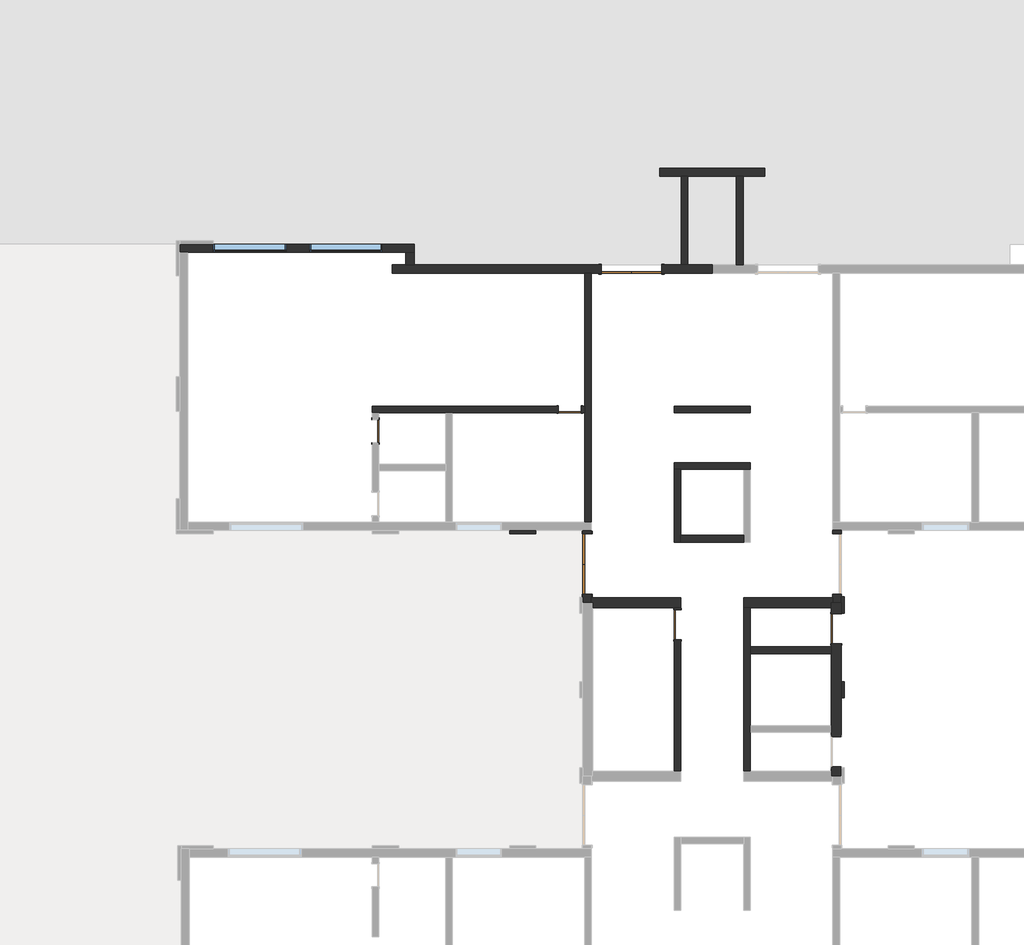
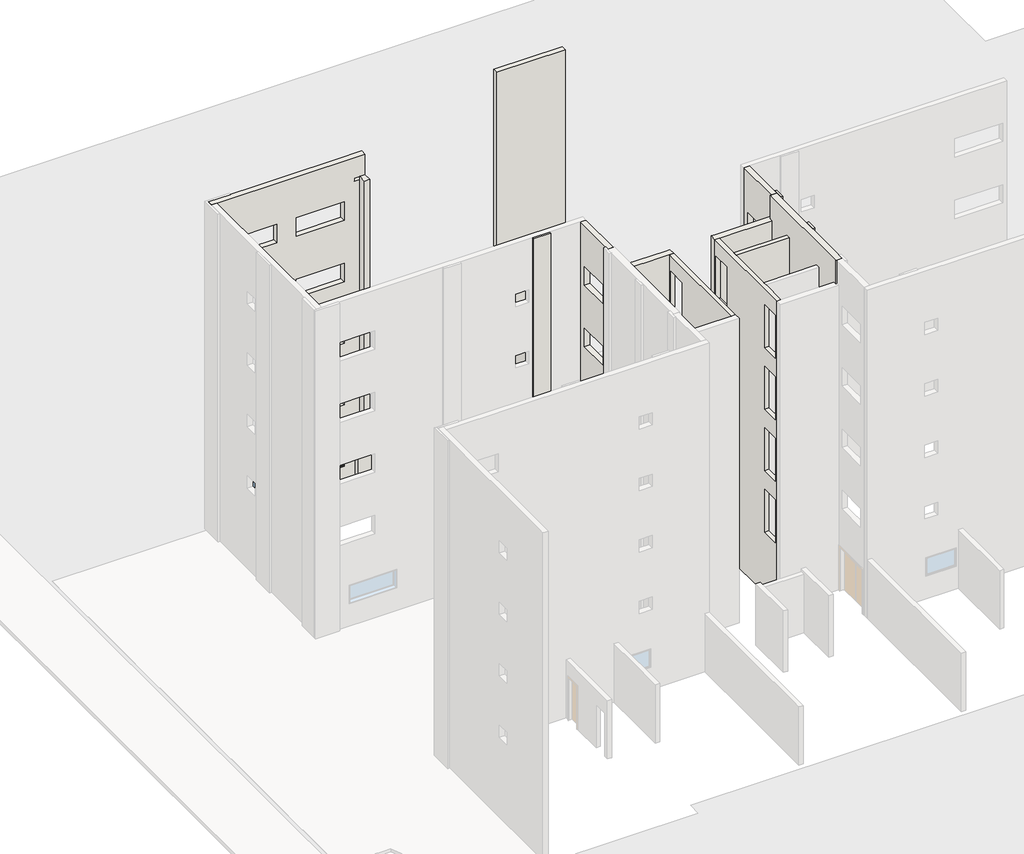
# One storey, part 4 of 6: 23 walls, 6 doors, 2 windows.
"""IFC4 building model written with IfcOpenShell, lengths in millimetres."""

from ifc_helpers import new_model, si_unit, origin, origin_with_axes, place, context, project, spatial, polyline, outline, extrude, faceted_brep, transform, mapped, element, save
from components import door_1830_x_2134_mm_660d1098, door_70_x_210_2a34fc55, door_90_x_210_7cab96d7, door_90_x_210_2c83007d, window_220_x_90_84e01c73

model = new_model("IFC4")

# Units and contexts
model_context = context("Model", 3, world=origin())
ifc_project = project(units=[si_unit("LENGTHUNIT", "METRE", prefix="MILLI")], contexts=[model_context])

# Site, building, storey
site = spatial("IfcSite", under=ifc_project)
building = spatial("IfcBuilding", under=site)
storey = spatial("IfcBuildingStorey", under=building, Name="Térreo", Elevation=0.0)

# Doors
placement = place(None, origin())
door_1830_x_2134_mm_shape = door_1830_x_2134_mm_660d1098(model_context)
element("IfcDoor", 1, ObjectType="Descarga dupla : 1830 x 2134 mm", at=placement, inside=storey, context=model_context, shape_type="MappedRepresentation", body=[
    mapped(door_1830_x_2134_mm_shape, transform((-3461.2265742, 13478.6614625, 0.0), x_axis=(-1.0, 0.0, 0.0), y_axis=(0.0, -1.0, 0.0), z_axis=(0.0, 0.0, 1.0))),
])
element("IfcDoor", 2, ObjectType="Descarga dupla : 1830 x 2134 mm", at=placement, inside=storey, context=model_context, shape_type="MappedRepresentation", body=[
    mapped(door_1830_x_2134_mm_shape, transform((-4801.2265742, 4563.6614625, 0.0), x_axis=(0.0, 1.0, 0.0), y_axis=(-1.0, 0.0, 0.0), z_axis=(0.0, 0.0, 1.0))),
])
door_70_x_210_shape = door_70_x_210_2a34fc55(model_context)
element("IfcDoor", 3, ObjectType="M_Descarga simples : 70 x 210", at=placement, inside=storey, context=model_context, shape_type="MappedRepresentation", body=[
    mapped(door_70_x_210_shape, transform((-5326.2265742, 9233.6614625, 0.0), x_axis=(1.0, 0.0, 0.0), y_axis=(0.0, 1.0, 0.0), z_axis=(0.0, 0.0, 1.0))),
])
element("IfcDoor", 4, ObjectType="M_Descarga simples : 70 x 210", at=placement, inside=storey, context=model_context, shape_type="MappedRepresentation", body=[
    mapped(door_70_x_210_shape, transform((-11191.2265742, 8583.6614625, 0.0), x_axis=(0.0, 1.0, 0.0), y_axis=(-1.0, 0.0, 0.0), z_axis=(0.0, 0.0, 1.0))),
])
door_90_x_210_shape = door_90_x_210_7cab96d7(model_context)
element("IfcDoor", 5, ObjectType="M_Descarga simples : 90 x 210", at=placement, inside=storey, context=model_context, shape_type="MappedRepresentation", body=[
    mapped(door_90_x_210_shape, transform((2723.7734258, 2613.6614625, 0.0), x_axis=(0.0, 1.0, 0.0), y_axis=(-1.0, 0.0, 0.0), z_axis=(0.0, 0.0, 1.0))),
])
door_90_x_210_2_shape = door_90_x_210_2c83007d(model_context)
element("IfcDoor", 6, ObjectType="M_Descarga simples : 90 x 210", at=placement, inside=storey, context=model_context, shape_type="MappedRepresentation", body=[
    mapped(door_90_x_210_2_shape, transform((-2076.2265742, 2733.6614625, 0.0), x_axis=(0.0, 1.0, 0.0), y_axis=(-1.0, 0.0, 0.0), z_axis=(0.0, 0.0, 1.0))),
])

# Walls
element("IfcWall", 7, ObjectType="Exeterna 25", at=placement, inside=storey, context=model_context, shape_type="Brep", body=[
    faceted_brep([(2623.7734258, 3393.6614625, 16000.0), (2623.7734258, 5583.6614625, 16000.0), (2623.7734258, 5583.6614625, 15000.0), (2623.7734258, 5583.6614625, 14850.0), (2623.7734258, 5583.6614625, 3000.0), (2623.7734258, 5583.6614625, 2850.0), (2623.7734258, 5583.6614625, 0.0), (2623.7734258, 5478.6614625, 0.0), (2623.7734258, 5478.6614625, 2134.0), (2623.7734258, 3648.6614625, 2134.0), (2623.7734258, 3648.6614625, 0.0), (2623.7734258, 3543.6614625, 0.0), (2623.7734258, 3393.6614625, 0.0), (2623.7734258, 3393.6614625, 2850.0), (2623.7734258, 3393.6614625, 3000.0), (2623.7734258, 3393.6614625, 14850.0), (2623.7734258, 3393.6614625, 15000.0), (2623.7734258, 5271.7613136, 5000.0), (2623.7734258, 3804.0781409, 5000.0), (2623.7734258, 3804.0781409, 4100.0), (2623.7734258, 5271.7613136, 4100.0), (2623.7734258, 5271.7613136, 8000.0), (2623.7734258, 3804.0781409, 8000.0), (2623.7734258, 3804.0781409, 7100.0), (2623.7734258, 5271.7613136, 7100.0), (2623.7734258, 5271.7613136, 11000.0), (2623.7734258, 3804.0781409, 11000.0), (2623.7734258, 3804.0781409, 10100.0), (2623.7734258, 5271.7613136, 10100.0), (2623.7734258, 5271.7613136, 14000.0), (2623.7734258, 3804.0781409, 14000.0), (2623.7734258, 3804.0781409, 13100.0), (2623.7734258, 5271.7613136, 13100.0), (2873.7734258, 5583.6614625, 16000.0), (2873.7734258, 3393.6614625, 16000.0), (2873.7734258, 3393.6614625, 0.0), (2873.7734258, 3648.6614625, 0.0), (2873.7734258, 3648.6614625, 2134.0), (2873.7734258, 5478.6614625, 2134.0), (2873.7734258, 5478.6614625, 0.0), (2873.7734258, 5583.6614625, 0.0), (2873.7734258, 3804.0781409, 5000.0), (2873.7734258, 5271.7613136, 5000.0), (2873.7734258, 5271.7613136, 4100.0), (2873.7734258, 3804.0781409, 4100.0), (2873.7734258, 3804.0781409, 8000.0), (2873.7734258, 5271.7613136, 8000.0), (2873.7734258, 5271.7613136, 7100.0), (2873.7734258, 3804.0781409, 7100.0), (2873.7734258, 3804.0781409, 11000.0), (2873.7734258, 5271.7613136, 11000.0), (2873.7734258, 5271.7613136, 10100.0), (2873.7734258, 3804.0781409, 10100.0), (2873.7734258, 3804.0781409, 14000.0), (2873.7734258, 5271.7613136, 14000.0), (2873.7734258, 5271.7613136, 13100.0), (2873.7734258, 3804.0781409, 13100.0)], [[[0, 1, 2, 3, 4, 5, 6, 7, 8, 9, 10, 11, 12, 13, 14, 15, 16], [17, 18, 19, 20], [21, 22, 23, 24], [25, 26, 27, 28], [29, 30, 31, 32]], [[33, 34, 35, 36, 37, 38, 39, 40], [41, 42, 43, 44], [45, 46, 47, 48], [49, 50, 51, 52], [53, 54, 55, 56]], [[6, 40, 39, 7]], [[35, 12, 11, 10, 36]], [[1, 0, 34, 33]], [[38, 8, 7, 39]], [[8, 38, 37, 9]], [[9, 37, 36, 10]], [[17, 42, 41, 18]], [[19, 44, 43, 20]], [[42, 17, 20, 43]], [[18, 41, 44, 19]], [[21, 46, 45, 22]], [[23, 48, 47, 24]], [[46, 21, 24, 47]], [[22, 45, 48, 23]], [[25, 50, 49, 26]], [[27, 52, 51, 28]], [[50, 25, 28, 51]], [[26, 49, 52, 27]], [[29, 54, 53, 30]], [[31, 56, 55, 32]], [[54, 29, 32, 55]], [[30, 53, 56, 31]], [[1, 33, 40, 6, 5, 4, 3, 2]], [[12, 35, 34, 0, 16, 15, 14, 13]]]),
])
element("IfcWall", 8, ObjectType="Exeterna 25", at=placement, inside=storey, context=model_context, shape_type="Brep", body=[
    faceted_brep([(-2611.2265742, 16278.6614625, 16000.0), (-2611.2265742, 16278.6614625, 14700.0), (-2611.2265742, 16278.6614625, 12150.0), (-2611.2265742, 16278.6614625, 11850.0), (-2611.2265742, 16278.6614625, 9150.0), (-2611.2265742, 16278.6614625, 8850.0), (-2611.2265742, 16278.6614625, 6150.0), (-2611.2265742, 16278.6614625, 5850.0), (-2611.2265742, 16278.6614625, 3150.0), (-2611.2265742, 16278.6614625, 2850.0), (-2611.2265742, 16278.6614625, 0.0), (-1961.2265742, 16278.6614625, 0.0), (-1761.2265742, 16278.6614625, 0.0), (-291.2265742, 16278.6614625, 0.0), (-91.2265742, 16278.6614625, 0.0), (558.7734258, 16278.6614625, 0.0), (558.7734258, 16278.6614625, 2850.0), (558.7734258, 16278.6614625, 3150.0), (558.7734258, 16278.6614625, 5850.0), (558.7734258, 16278.6614625, 6150.0), (558.7734258, 16278.6614625, 8850.0), (558.7734258, 16278.6614625, 9150.0), (558.7734258, 16278.6614625, 11850.0), (558.7734258, 16278.6614625, 12150.0), (558.7734258, 16278.6614625, 14700.0), (558.7734258, 16278.6614625, 16000.0), (-2611.2265742, 16528.6614625, 0.0), (-2611.2265742, 16528.6614625, 2850.0), (-2611.2265742, 16528.6614625, 3150.0), (-2611.2265742, 16528.6614625, 5850.0), (-2611.2265742, 16528.6614625, 6150.0), (-2611.2265742, 16528.6614625, 8850.0), (-2611.2265742, 16528.6614625, 9150.0), (-2611.2265742, 16528.6614625, 11850.0), (-2611.2265742, 16528.6614625, 12150.0), (-2611.2265742, 16528.6614625, 14700.0), (-2611.2265742, 16528.6614625, 16000.0), (558.7734258, 16528.6614625, 16000.0), (558.7734258, 16528.6614625, 14700.0), (558.7734258, 16528.6614625, 12150.0), (558.7734258, 16528.6614625, 11850.0), (558.7734258, 16528.6614625, 9150.0), (558.7734258, 16528.6614625, 8850.0), (558.7734258, 16528.6614625, 6150.0), (558.7734258, 16528.6614625, 5850.0), (558.7734258, 16528.6614625, 3150.0), (558.7734258, 16528.6614625, 2850.0), (558.7734258, 16528.6614625, 0.0)], [[[0, 1, 2, 3, 4, 5, 6, 7, 8, 9, 10, 11, 12, 13, 14, 15, 16, 17, 18, 19, 20, 21, 22, 23, 24, 25]], [[26, 27, 28, 29, 30, 31, 32, 33, 34, 35, 36, 37, 38, 39, 40, 41, 42, 43, 44, 45, 46, 47]], [[15, 14, 13, 12, 11, 10, 26, 47]], [[0, 25, 37, 36]], [[15, 47, 46, 45, 44, 43, 42, 41, 40, 39, 38, 37, 25, 24, 23, 22, 21, 20, 19, 18, 17, 16]], [[0, 36, 35, 34, 33, 32, 31, 30, 29, 28, 27, 26, 10, 9, 8, 7, 6, 5, 4, 3, 2, 1]]]),
])
element("IfcWall", 9, ObjectType="Exeterna 25", at=placement, inside=storey, context=model_context, shape_type="Brep", body=[
    faceted_brep([(-10026.2265742, 14233.6614625, 0.0), (-17116.2265742, 14233.6614625, 0.0), (-17116.2265742, 14233.6614625, 16000.0), (-10766.2265742, 14233.6614625, 16000.0), (-10516.2265742, 14233.6614625, 16000.0), (-10026.2265742, 14233.6614625, 16000.0), (-10026.2265742, 14233.6614625, 15000.0), (-10516.2265742, 14233.6614625, 15000.0), (-10516.2265742, 14233.6614625, 14850.0), (-10026.2265742, 14233.6614625, 14850.0), (-10026.2265742, 14233.6614625, 3000.0), (-10516.2265742, 14233.6614625, 3000.0), (-10516.2265742, 14233.6614625, 2850.0), (-10026.2265742, 14233.6614625, 2850.0), (-16291.2265742, 14233.6614625, 5000.0), (-16291.2265742, 14233.6614625, 4100.0), (-14091.2265742, 14233.6614625, 4100.0), (-14091.2265742, 14233.6614625, 5000.0), (-13191.2265742, 14233.6614625, 5000.0), (-13191.2265742, 14233.6614625, 4100.0), (-10991.2265742, 14233.6614625, 4100.0), (-10991.2265742, 14233.6614625, 5000.0), (-16291.2265742, 14233.6614625, 8000.0), (-16291.2265742, 14233.6614625, 7100.0), (-14091.2265742, 14233.6614625, 7100.0), (-14091.2265742, 14233.6614625, 8000.0), (-13191.2265742, 14233.6614625, 8000.0), (-13191.2265742, 14233.6614625, 7100.0), (-10991.2265742, 14233.6614625, 7100.0), (-10991.2265742, 14233.6614625, 8000.0), (-16291.2265742, 14233.6614625, 11000.0), (-16291.2265742, 14233.6614625, 10100.0), (-14091.2265742, 14233.6614625, 10100.0), (-14091.2265742, 14233.6614625, 11000.0), (-13191.2265742, 14233.6614625, 11000.0), (-13191.2265742, 14233.6614625, 10100.0), (-10991.2265742, 14233.6614625, 10100.0), (-10991.2265742, 14233.6614625, 11000.0), (-16291.2265742, 14233.6614625, 14000.0), (-16291.2265742, 14233.6614625, 13100.0), (-14091.2265742, 14233.6614625, 13100.0), (-14091.2265742, 14233.6614625, 14000.0), (-13191.2265742, 14233.6614625, 14000.0), (-13191.2265742, 14233.6614625, 13100.0), (-10991.2265742, 14233.6614625, 13100.0), (-10991.2265742, 14233.6614625, 14000.0), (-16096.2265742, 14233.6614625, 2000.0), (-16096.2265742, 14233.6614625, 1100.0), (-13896.2265742, 14233.6614625, 1100.0), (-13896.2265742, 14233.6614625, 2000.0), (-13191.2265742, 14233.6614625, 2000.0), (-13191.2265742, 14233.6614625, 1100.0), (-10991.2265742, 14233.6614625, 1100.0), (-10991.2265742, 14233.6614625, 2000.0), (-17116.2265742, 13983.6614625, 0.0), (-16866.2265742, 13983.6614625, 0.0), (-10276.2265742, 13983.6614625, 0.0), (-10026.2265742, 13983.6614625, 0.0), (-10026.2265742, 13983.6614625, 2850.0), (-10516.2265742, 13983.6614625, 2850.0), (-10516.2265742, 13983.6614625, 3000.0), (-10026.2265742, 13983.6614625, 3000.0), (-10026.2265742, 13983.6614625, 14850.0), (-10516.2265742, 13983.6614625, 14850.0), (-10516.2265742, 13983.6614625, 15000.0), (-10026.2265742, 13983.6614625, 15000.0), (-10026.2265742, 13983.6614625, 16000.0), (-16866.2265742, 13983.6614625, 16000.0), (-17116.2265742, 13983.6614625, 16000.0), (-16291.2265742, 13983.6614625, 4100.0), (-16291.2265742, 13983.6614625, 5000.0), (-14091.2265742, 13983.6614625, 5000.0), (-14091.2265742, 13983.6614625, 4100.0), (-13191.2265742, 13983.6614625, 4100.0), (-13191.2265742, 13983.6614625, 5000.0), (-10991.2265742, 13983.6614625, 5000.0), (-10991.2265742, 13983.6614625, 4100.0), (-16291.2265742, 13983.6614625, 7100.0), (-16291.2265742, 13983.6614625, 8000.0), (-14091.2265742, 13983.6614625, 8000.0), (-14091.2265742, 13983.6614625, 7100.0), (-13191.2265742, 13983.6614625, 7100.0), (-13191.2265742, 13983.6614625, 8000.0), (-10991.2265742, 13983.6614625, 8000.0), (-10991.2265742, 13983.6614625, 7100.0), (-16291.2265742, 13983.6614625, 10100.0), (-16291.2265742, 13983.6614625, 11000.0), (-14091.2265742, 13983.6614625, 11000.0), (-14091.2265742, 13983.6614625, 10100.0), (-13191.2265742, 13983.6614625, 10100.0), (-13191.2265742, 13983.6614625, 11000.0), (-10991.2265742, 13983.6614625, 11000.0), (-10991.2265742, 13983.6614625, 10100.0), (-16291.2265742, 13983.6614625, 13100.0), (-16291.2265742, 13983.6614625, 14000.0), (-14091.2265742, 13983.6614625, 14000.0), (-14091.2265742, 13983.6614625, 13100.0), (-13191.2265742, 13983.6614625, 13100.0), (-13191.2265742, 13983.6614625, 14000.0), (-10991.2265742, 13983.6614625, 14000.0), (-10991.2265742, 13983.6614625, 13100.0), (-16096.2265742, 13983.6614625, 1100.0), (-16096.2265742, 13983.6614625, 2000.0), (-13896.2265742, 13983.6614625, 2000.0), (-13896.2265742, 13983.6614625, 1100.0), (-13191.2265742, 13983.6614625, 1100.0), (-13191.2265742, 13983.6614625, 2000.0), (-10991.2265742, 13983.6614625, 2000.0), (-10991.2265742, 13983.6614625, 1100.0)], [[[0, 1, 2, 3, 4, 5, 6, 7, 8, 9, 10, 11, 12, 13], [14, 15, 16, 17], [18, 19, 20, 21], [22, 23, 24, 25], [26, 27, 28, 29], [30, 31, 32, 33], [34, 35, 36, 37], [38, 39, 40, 41], [42, 43, 44, 45], [46, 47, 48, 49], [50, 51, 52, 53]], [[54, 55, 56, 57, 58, 59, 60, 61, 62, 63, 64, 65, 66, 67, 68], [69, 70, 71, 72], [73, 74, 75, 76], [77, 78, 79, 80], [81, 82, 83, 84], [85, 86, 87, 88], [89, 90, 91, 92], [93, 94, 95, 96], [97, 98, 99, 100], [101, 102, 103, 104], [105, 106, 107, 108]], [[1, 0, 57, 56, 55, 54]], [[5, 4, 3, 2, 68, 67, 66]], [[2, 1, 54, 68]], [[5, 66, 65, 6]], [[57, 0, 13, 58]], [[61, 10, 9, 62]], [[12, 59, 58, 13]], [[60, 11, 10, 61]], [[59, 12, 11, 60]], [[70, 69, 15, 14]], [[71, 70, 14, 17]], [[72, 71, 17, 16]], [[69, 72, 16, 15]], [[74, 73, 19, 18]], [[75, 74, 18, 21]], [[76, 75, 21, 20]], [[73, 76, 20, 19]], [[8, 63, 62, 9]], [[64, 7, 6, 65]], [[63, 8, 7, 64]], [[78, 77, 23, 22]], [[79, 78, 22, 25]], [[80, 79, 25, 24]], [[77, 80, 24, 23]], [[82, 81, 27, 26]], [[83, 82, 26, 29]], [[84, 83, 29, 28]], [[81, 84, 28, 27]], [[86, 85, 31, 30]], [[87, 86, 30, 33]], [[88, 87, 33, 32]], [[85, 88, 32, 31]], [[90, 89, 35, 34]], [[91, 90, 34, 37]], [[92, 91, 37, 36]], [[89, 92, 36, 35]], [[94, 93, 39, 38]], [[95, 94, 38, 41]], [[96, 95, 41, 40]], [[93, 96, 40, 39]], [[98, 97, 43, 42]], [[99, 98, 42, 45]], [[100, 99, 45, 44]], [[97, 100, 44, 43]], [[102, 101, 47, 46]], [[103, 102, 46, 49]], [[104, 103, 49, 48]], [[101, 104, 48, 47]], [[106, 105, 51, 50]], [[107, 106, 50, 53]], [[108, 107, 53, 52]], [[105, 108, 52, 51]]]),
])
element("IfcWall", 10, ObjectType="Exeterna 25", at=placement, inside=storey, context=model_context, shape_type="Brep", body=[
    faceted_brep([(-4926.2265742, 3393.6614625, 16000.0), (-4926.2265742, 5583.6614625, 16000.0), (-4926.2265742, 5583.6614625, 0.0), (-4926.2265742, 5478.6614625, 0.0), (-4926.2265742, 5478.6614625, 2134.0), (-4926.2265742, 3648.6614625, 2134.0), (-4926.2265742, 3648.6614625, 0.0), (-4926.2265742, 3393.6614625, 0.0), (-4926.2265742, 5271.7613136, 5000.0), (-4926.2265742, 3804.0781409, 5000.0), (-4926.2265742, 3804.0781409, 4100.0), (-4926.2265742, 5271.7613136, 4100.0), (-4926.2265742, 5271.7613136, 8000.0), (-4926.2265742, 3804.0781409, 8000.0), (-4926.2265742, 3804.0781409, 7100.0), (-4926.2265742, 5271.7613136, 7100.0), (-4926.2265742, 5271.7613136, 11000.0), (-4926.2265742, 3804.0781409, 11000.0), (-4926.2265742, 3804.0781409, 10100.0), (-4926.2265742, 5271.7613136, 10100.0), (-4926.2265742, 5271.7613136, 14000.0), (-4926.2265742, 3804.0781409, 14000.0), (-4926.2265742, 3804.0781409, 13100.0), (-4926.2265742, 5271.7613136, 13100.0), (-4676.2265742, 5583.6614625, 16000.0), (-4676.2265742, 3393.6614625, 16000.0), (-4676.2265742, 3393.6614625, 15000.0), (-4676.2265742, 3393.6614625, 14850.0), (-4676.2265742, 3393.6614625, 0.0), (-4676.2265742, 3543.6614625, 0.0), (-4676.2265742, 3648.6614625, 0.0), (-4676.2265742, 3648.6614625, 2134.0), (-4676.2265742, 5478.6614625, 2134.0), (-4676.2265742, 5478.6614625, 0.0), (-4676.2265742, 5583.6614625, 0.0), (-4676.2265742, 5583.6614625, 14850.0), (-4676.2265742, 5583.6614625, 15000.0), (-4676.2265742, 3804.0781409, 5000.0), (-4676.2265742, 5271.7613136, 5000.0), (-4676.2265742, 5271.7613136, 4100.0), (-4676.2265742, 3804.0781409, 4100.0), (-4676.2265742, 3804.0781409, 8000.0), (-4676.2265742, 5271.7613136, 8000.0), (-4676.2265742, 5271.7613136, 7100.0), (-4676.2265742, 3804.0781409, 7100.0), (-4676.2265742, 3804.0781409, 11000.0), (-4676.2265742, 5271.7613136, 11000.0), (-4676.2265742, 5271.7613136, 10100.0), (-4676.2265742, 3804.0781409, 10100.0), (-4676.2265742, 3804.0781409, 14000.0), (-4676.2265742, 5271.7613136, 14000.0), (-4676.2265742, 5271.7613136, 13100.0), (-4676.2265742, 3804.0781409, 13100.0)], [[[0, 1, 2, 3, 4, 5, 6, 7], [8, 9, 10, 11], [12, 13, 14, 15], [16, 17, 18, 19], [20, 21, 22, 23]], [[24, 25, 26, 27, 28, 29, 30, 31, 32, 33, 34, 35, 36], [37, 38, 39, 40], [41, 42, 43, 44], [45, 46, 47, 48], [49, 50, 51, 52]], [[2, 34, 33, 3]], [[28, 7, 6, 30, 29]], [[1, 0, 25, 24]], [[32, 4, 3, 33]], [[4, 32, 31, 5]], [[5, 31, 30, 6]], [[8, 38, 37, 9]], [[10, 40, 39, 11]], [[38, 8, 11, 39]], [[9, 37, 40, 10]], [[12, 42, 41, 13]], [[14, 44, 43, 15]], [[42, 12, 15, 43]], [[13, 41, 44, 14]], [[16, 46, 45, 17]], [[18, 48, 47, 19]], [[46, 16, 19, 47]], [[17, 45, 48, 18]], [[20, 50, 49, 21]], [[22, 52, 51, 23]], [[50, 20, 23, 51]], [[21, 49, 52, 22]], [[1, 24, 36, 35, 34, 2]], [[7, 28, 27, 26, 25, 0]]]),
])
element("IfcWall", 11, ObjectType="Exeterna 25", at=placement, inside=storey, context=model_context, shape_type="Brep", body=[
    faceted_brep([(-10026.2265742, 13603.6614625, 0.0), (-10026.2265742, 13983.6614625, 0.0), (-10026.2265742, 13983.6614625, 15000.0), (-10026.2265742, 13603.6614625, 15000.0), (-10026.2265742, 13603.6614625, 6000.0), (-10026.2265742, 13603.6614625, 3000.0), (-10276.2265742, 13603.6614625, 0.0), (-10276.2265742, 13603.6614625, 15000.0), (-10276.2265742, 13983.6614625, 15000.0), (-10276.2265742, 13983.6614625, 0.0)], [[[0, 1, 2, 3, 4, 5]], [[6, 7, 8, 9]], [[1, 0, 6, 9]], [[3, 2, 8, 7]], [[2, 1, 9, 8]], [[0, 5, 4, 3, 7, 6]]]),
])
element("IfcWall", 12, ObjectType="Exeterna 25", at=placement, inside=storey, context=model_context, shape_type="Brep", body=[
    faceted_brep([(-10691.2265742, 13603.6614625, 0.0), (-10691.2265742, 13603.6614625, 2850.0), (-1026.2265742, 13603.6614625, 2850.0), (-1026.2265742, 13603.6614625, 0.0), (-1761.2265742, 13603.6614625, 0.0), (-1961.2265742, 13603.6614625, 0.0), (-2546.2265742, 13603.6614625, 0.0), (-2546.2265742, 13603.6614625, 2134.0), (-4376.2265742, 13603.6614625, 2134.0), (-4376.2265742, 13603.6614625, 0.0), (-10691.2265742, 13353.6614625, 2850.0), (-10691.2265742, 13353.6614625, 0.0), (-4876.2265742, 13353.6614625, 0.0), (-4676.2265742, 13353.6614625, 0.0), (-4376.2265742, 13353.6614625, 0.0), (-4376.2265742, 13353.6614625, 2134.0), (-2546.2265742, 13353.6614625, 2134.0), (-2546.2265742, 13353.6614625, 0.0), (-1026.2265742, 13353.6614625, 0.0), (-1026.2265742, 13353.6614625, 2850.0), (-4676.2265742, 13353.6614625, 2850.0), (-4876.2265742, 13353.6614625, 2850.0)], [[[0, 1, 2, 3, 4, 5, 6, 7, 8, 9]], [[10, 11, 12, 13, 14, 15, 16, 17, 18, 19, 20, 21]], [[11, 0, 9, 14, 13, 12]], [[3, 18, 17, 6, 5, 4]], [[1, 0, 11, 10]], [[2, 1, 10, 21, 20, 19]], [[3, 2, 19, 18]], [[8, 15, 14, 9]], [[15, 8, 7, 16]], [[16, 7, 6, 17]]]),
])
element("IfcWall", 13, ObjectType="Estrutura - Interna 30", at=placement, inside=storey, context=model_context, shape_type="Brep", body=[
    faceted_brep([(-4626.2265742, 3243.6614625, 0.0), (-2176.2265742, 3243.6614625, 0.0), (-1976.2265742, 3243.6614625, 0.0), (-1976.2265742, 3243.6614625, 2850.0), (-1976.2265742, 3243.6614625, 3000.0), (-1976.2265742, 3243.6614625, 14850.0), (-2176.2265742, 3243.6614625, 14850.0), (-4626.2265742, 3243.6614625, 14850.0), (-1976.2265742, 3543.6614625, 0.0), (-4676.2265742, 3543.6614625, 0.0), (-4676.2265742, 3543.6614625, 2850.0), (-4676.2265742, 3543.6614625, 3000.0), (-4676.2265742, 3543.6614625, 14850.0), (-2176.2265742, 3543.6614625, 14850.0), (-1976.2265742, 3543.6614625, 14850.0), (-1976.2265742, 3543.6614625, 12000.0), (-1976.2265742, 3543.6614625, 11850.0), (-1976.2265742, 3543.6614625, 9000.0), (-1976.2265742, 3543.6614625, 8850.0), (-1976.2265742, 3543.6614625, 6000.0), (-1976.2265742, 3543.6614625, 5850.0), (-1976.2265742, 3543.6614625, 3000.0), (-1976.2265742, 3543.6614625, 2850.0), (-4626.2265742, 3393.6614625, 0.0), (-4676.2265742, 3393.6614625, 0.0), (-4676.2265742, 3393.6614625, 14850.0), (-4626.2265742, 3393.6614625, 14850.0)], [[[0, 1, 2, 3, 4, 5, 6, 7]], [[8, 9, 10, 11, 12, 13, 14, 15, 16, 17, 18, 19, 20, 21, 22]], [[2, 1, 0, 23, 24, 9, 8]], [[7, 6, 5, 14, 13, 12, 25, 26]], [[0, 7, 26, 23]], [[26, 25, 24, 23]], [[25, 12, 11, 10, 9, 24]], [[2, 8, 22, 21, 20, 19, 18, 17, 16, 15, 14, 5, 4, 3]]]),
])
element("IfcWall", 14, ObjectType="Estrutura - Interna 30", at=placement, inside=storey, context=model_context, shape_type="Brep", body=[
    faceted_brep([(2623.7734258, 3543.6614625, 0.0), (-76.2265742, 3543.6614625, 0.0), (-76.2265742, 3543.6614625, 3000.0), (123.7734258, 3543.6614625, 3000.0), (123.7734258, 3543.6614625, 5850.0), (-76.2265742, 3543.6614625, 5850.0), (-76.2265742, 3543.6614625, 6000.0), (-76.2265742, 3543.6614625, 8850.0), (-76.2265742, 3543.6614625, 9000.0), (-76.2265742, 3543.6614625, 11850.0), (-76.2265742, 3543.6614625, 12000.0), (-76.2265742, 3543.6614625, 14850.0), (123.7734258, 3543.6614625, 14850.0), (2623.7734258, 3543.6614625, 14850.0), (2573.7734258, 3243.6614625, 0.0), (2573.7734258, 3243.6614625, 14850.0), (123.7734258, 3243.6614625, 14850.0), (-76.2265742, 3243.6614625, 14850.0), (-76.2265742, 3243.6614625, 5850.0), (123.7734258, 3243.6614625, 5850.0), (123.7734258, 3243.6614625, 3000.0), (-76.2265742, 3243.6614625, 3000.0), (-76.2265742, 3243.6614625, 0.0), (123.7734258, 3243.6614625, 0.0), (2623.7734258, 3393.6614625, 0.0), (2573.7734258, 3393.6614625, 0.0), (2573.7734258, 3393.6614625, 14850.0), (2623.7734258, 3393.6614625, 14850.0)], [[[0, 1, 2, 3, 4, 5, 6, 7, 8, 9, 10, 11, 12, 13]], [[14, 15, 16, 17, 18, 19, 20, 21, 22, 23]], [[1, 0, 24, 25, 14, 23, 22]], [[13, 12, 11, 17, 16, 15, 26, 27]], [[20, 3, 2, 21]], [[2, 1, 22, 21]], [[18, 5, 4, 19]], [[4, 3, 20, 19]], [[0, 13, 27, 24]], [[27, 26, 25, 24]], [[26, 15, 14, 25]], [[5, 18, 17, 11, 10, 9, 8, 7, 6]]]),
])
element("IfcWall", 15, ObjectType="Estrutura 20", at=placement, inside=storey, context=model_context, shape_type="Brep", body=[
    faceted_brep([(-76.2265742, 3243.6614625, 14850.0), (-76.2265742, 3243.6614625, 5850.0), (-76.2265742, 3243.6614625, 3000.0), (-76.2265742, 3243.6614625, 0.0), (-76.2265742, -1696.3385375, 0.0), (-76.2265742, -1696.3385375, 14850.0), (-76.2265742, 2303.6614625, 3000.0), (-76.2265742, 3153.6614625, 3000.0), (-76.2265742, 3153.6614625, 5100.0), (-76.2265742, 2303.6614625, 5100.0), (-76.2265742, -746.3385375, 3000.0), (-76.2265742, -746.3385375, 5100.0), (-76.2265742, -1596.3385375, 5100.0), (-76.2265742, -1596.3385375, 3000.0), (-76.2265742, -746.3385375, 6000.0), (-76.2265742, -746.3385375, 8100.0), (-76.2265742, -1596.3385375, 8100.0), (-76.2265742, -1596.3385375, 6000.0), (-76.2265742, 2303.6614625, 6000.0), (-76.2265742, 3153.6614625, 6000.0), (-76.2265742, 3153.6614625, 8100.0), (-76.2265742, 2303.6614625, 8100.0), (-76.2265742, -746.3385375, 9000.0), (-76.2265742, -746.3385375, 11100.0), (-76.2265742, -1596.3385375, 11100.0), (-76.2265742, -1596.3385375, 9000.0), (-76.2265742, 2303.6614625, 9000.0), (-76.2265742, 3153.6614625, 9000.0), (-76.2265742, 3153.6614625, 11100.0), (-76.2265742, 2303.6614625, 11100.0), (-76.2265742, -746.3385375, 12000.0), (-76.2265742, -746.3385375, 14100.0), (-76.2265742, -1596.3385375, 14100.0), (-76.2265742, -1596.3385375, 12000.0), (-76.2265742, 2303.6614625, 12000.0), (-76.2265742, 3153.6614625, 12000.0), (-76.2265742, 3153.6614625, 14100.0), (-76.2265742, 2303.6614625, 14100.0), (123.7734258, 3243.6614625, 0.0), (123.7734258, 3243.6614625, 3000.0), (123.7734258, 3243.6614625, 5850.0), (123.7734258, 3243.6614625, 14850.0), (123.7734258, 2063.6614625, 14850.0), (123.7734258, 1863.6614625, 14850.0), (123.7734258, -316.3385375, 14850.0), (123.7734258, -516.3385375, 14850.0), (123.7734258, -1696.3385375, 14850.0), (123.7734258, -1696.3385375, 0.0), (123.7734258, -516.3385375, 0.0), (123.7734258, -316.3385375, 0.0), (123.7734258, 1863.6614625, 0.0), (123.7734258, 2063.6614625, 0.0), (123.7734258, 2303.6614625, 3000.0), (123.7734258, 2303.6614625, 5100.0), (123.7734258, 3153.6614625, 5100.0), (123.7734258, 3153.6614625, 3000.0), (123.7734258, -746.3385375, 3000.0), (123.7734258, -1596.3385375, 3000.0), (123.7734258, -1596.3385375, 5100.0), (123.7734258, -746.3385375, 5100.0), (123.7734258, -746.3385375, 6000.0), (123.7734258, -1596.3385375, 6000.0), (123.7734258, -1596.3385375, 8100.0), (123.7734258, -746.3385375, 8100.0), (123.7734258, 2303.6614625, 6000.0), (123.7734258, 2303.6614625, 8100.0), (123.7734258, 3153.6614625, 8100.0), (123.7734258, 3153.6614625, 6000.0), (123.7734258, -746.3385375, 9000.0), (123.7734258, -1596.3385375, 9000.0), (123.7734258, -1596.3385375, 11100.0), (123.7734258, -746.3385375, 11100.0), (123.7734258, 2303.6614625, 9000.0), (123.7734258, 2303.6614625, 11100.0), (123.7734258, 3153.6614625, 11100.0), (123.7734258, 3153.6614625, 9000.0), (123.7734258, -746.3385375, 12000.0), (123.7734258, -1596.3385375, 12000.0), (123.7734258, -1596.3385375, 14100.0), (123.7734258, -746.3385375, 14100.0), (123.7734258, 2303.6614625, 12000.0), (123.7734258, 2303.6614625, 14100.0), (123.7734258, 3153.6614625, 14100.0), (123.7734258, 3153.6614625, 12000.0)], [[[0, 1, 2, 3, 4, 5], [6, 7, 8, 9], [10, 11, 12, 13], [14, 15, 16, 17], [18, 19, 20, 21], [22, 23, 24, 25], [26, 27, 28, 29], [30, 31, 32, 33], [34, 35, 36, 37]], [[38, 39, 40, 41, 42, 43, 44, 45, 46, 47, 48, 49, 50, 51], [52, 53, 54, 55], [56, 57, 58, 59], [60, 61, 62, 63], [64, 65, 66, 67], [68, 69, 70, 71], [72, 73, 74, 75], [76, 77, 78, 79], [80, 81, 82, 83]], [[4, 3, 38, 51, 50, 49, 48, 47]], [[0, 5, 46, 45, 44, 43, 42, 41]], [[7, 6, 52, 55]], [[8, 7, 55, 54]], [[9, 8, 54, 53]], [[6, 9, 53, 52]], [[57, 56, 10, 13]], [[58, 57, 13, 12]], [[59, 58, 12, 11]], [[56, 59, 11, 10]], [[61, 60, 14, 17]], [[62, 61, 17, 16]], [[63, 62, 16, 15]], [[60, 63, 15, 14]], [[19, 18, 64, 67]], [[20, 19, 67, 66]], [[21, 20, 66, 65]], [[18, 21, 65, 64]], [[69, 68, 22, 25]], [[70, 69, 25, 24]], [[71, 70, 24, 23]], [[68, 71, 23, 22]], [[27, 26, 72, 75]], [[28, 27, 75, 74]], [[29, 28, 74, 73]], [[26, 29, 73, 72]], [[77, 76, 30, 33]], [[78, 77, 33, 32]], [[79, 78, 32, 31]], [[76, 79, 31, 30]], [[35, 34, 80, 83]], [[36, 35, 83, 82]], [[37, 36, 82, 81]], [[34, 37, 81, 80]], [[4, 47, 46, 5]], [[0, 41, 40, 39, 38, 3, 2, 1]]]),
])
element("IfcWall", 16, ObjectType="Estrutura 20", at=placement, inside=storey, context=model_context, shape_type="Brep", body=[
    faceted_brep([(-2176.2265742, -1696.3385375, 14850.0), (-2176.2265742, 3243.6614625, 14850.0), (-2176.2265742, 3243.6614625, 0.0), (-2176.2265742, 3183.6614625, 0.0), (-2176.2265742, 3183.6614625, 2100.0), (-2176.2265742, 2283.6614625, 2100.0), (-2176.2265742, 2283.6614625, 0.0), (-2176.2265742, -1696.3385375, 0.0), (-2176.2265742, 2243.6614625, 3000.0), (-2176.2265742, 3143.6614625, 3000.0), (-2176.2265742, 3143.6614625, 5100.0), (-2176.2265742, 2243.6614625, 5100.0), (-2176.2265742, 2243.6614625, 6000.0), (-2176.2265742, 3143.6614625, 6000.0), (-2176.2265742, 3143.6614625, 8100.0), (-2176.2265742, 2243.6614625, 8100.0), (-2176.2265742, 2243.6614625, 9000.0), (-2176.2265742, 3143.6614625, 9000.0), (-2176.2265742, 3143.6614625, 11100.0), (-2176.2265742, 2243.6614625, 11100.0), (-2176.2265742, 2243.6614625, 12000.0), (-2176.2265742, 3143.6614625, 12000.0), (-2176.2265742, 3143.6614625, 14100.0), (-2176.2265742, 2243.6614625, 14100.0), (-1976.2265742, 3243.6614625, 14850.0), (-1976.2265742, -1696.3385375, 14850.0), (-1976.2265742, -1696.3385375, 3000.0), (-1976.2265742, -1696.3385375, 2850.0), (-1976.2265742, -1696.3385375, 0.0), (-1976.2265742, 2283.6614625, 0.0), (-1976.2265742, 2283.6614625, 2100.0), (-1976.2265742, 3183.6614625, 2100.0), (-1976.2265742, 3183.6614625, 0.0), (-1976.2265742, 3243.6614625, 0.0), (-1976.2265742, 3243.6614625, 2850.0), (-1976.2265742, 3243.6614625, 3000.0), (-1976.2265742, 3143.6614625, 3000.0), (-1976.2265742, 2243.6614625, 3000.0), (-1976.2265742, 2243.6614625, 5100.0), (-1976.2265742, 3143.6614625, 5100.0), (-1976.2265742, 3143.6614625, 6000.0), (-1976.2265742, 2243.6614625, 6000.0), (-1976.2265742, 2243.6614625, 8100.0), (-1976.2265742, 3143.6614625, 8100.0), (-1976.2265742, 3143.6614625, 9000.0), (-1976.2265742, 2243.6614625, 9000.0), (-1976.2265742, 2243.6614625, 11100.0), (-1976.2265742, 3143.6614625, 11100.0), (-1976.2265742, 3143.6614625, 12000.0), (-1976.2265742, 2243.6614625, 12000.0), (-1976.2265742, 2243.6614625, 14100.0), (-1976.2265742, 3143.6614625, 14100.0)], [[[0, 1, 2, 3, 4, 5, 6, 7], [8, 9, 10, 11], [12, 13, 14, 15], [16, 17, 18, 19], [20, 21, 22, 23]], [[24, 25, 26, 27, 28, 29, 30, 31, 32, 33, 34, 35], [36, 37, 38, 39], [40, 41, 42, 43], [44, 45, 46, 47], [48, 49, 50, 51]], [[2, 33, 32, 3]], [[28, 7, 6, 29]], [[1, 0, 25, 24]], [[4, 3, 32, 31]], [[5, 4, 31, 30]], [[6, 5, 30, 29]], [[9, 8, 37, 36]], [[10, 9, 36, 39]], [[11, 10, 39, 38]], [[8, 11, 38, 37]], [[13, 12, 41, 40]], [[14, 13, 40, 43]], [[15, 14, 43, 42]], [[12, 15, 42, 41]], [[17, 16, 45, 44]], [[18, 17, 44, 47]], [[19, 18, 47, 46]], [[16, 19, 46, 45]], [[21, 20, 49, 48]], [[22, 21, 48, 51]], [[23, 22, 51, 50]], [[20, 23, 50, 49]], [[7, 28, 27, 26, 25, 0]], [[1, 24, 35, 34, 33, 2]]]),
])
element("IfcWall", 17, ObjectType="Estrutura 20", at=placement, inside=storey, context=model_context, shape_type="SweptSolid", body=[
    extrude(outline(polyline([(2573.7734258, 1863.6614625), (123.7734258, 1863.6614625), (123.7734258, 2063.6614625), (2573.7734258, 2063.6614625), (2573.7734258, 1863.6614625)])), origin_with_axes(), (0.0, 0.0, 1.0), 14850.0),
])
element("IfcWall", 18, ObjectType="Estrutura 20", at=placement, inside=storey, context=model_context, shape_type="Brep", body=[
    faceted_brep([(-2176.2265742, 7433.6614625, 0.0), (-1976.2265742, 7433.6614625, 0.0), (-76.2265742, 7433.6614625, 0.0), (123.7734258, 7433.6614625, 0.0), (123.7734258, 7433.6614625, 2850.0), (-2176.2265742, 7433.6614625, 2850.0), (-2176.2265742, 7633.6614625, 0.0), (-2176.2265742, 7633.6614625, 2850.0), (123.7734258, 7633.6614625, 2850.0), (123.7734258, 7633.6614625, 0.0)], [[[0, 1, 2, 3, 4, 5]], [[6, 7, 8, 9]], [[3, 2, 1, 0, 6, 9]], [[4, 3, 9, 8]], [[0, 5, 7, 6]], [[5, 4, 8, 7]]]),
])
element("IfcWall", 19, ObjectType="Estrutura 20", at=placement, inside=storey, context=model_context, shape_type="SweptSolid", body=[
    extrude(outline(polyline([(-76.2265742, 5233.6614625), (-1976.2265742, 5233.6614625), (-1976.2265742, 5433.6614625), (-76.2265742, 5433.6614625), (-76.2265742, 5233.6614625)])), origin_with_axes(), (0.0, 0.0, 1.0), 2850.0),
])
element("IfcWall", 20, ObjectType="Estrutura 20", at=placement, inside=storey, context=model_context, shape_type="Brep", body=[
    faceted_brep([(-4876.2265742, 9333.6614625, 0.0), (-4976.2265742, 9333.6614625, 0.0), (-4976.2265742, 9333.6614625, 2100.0), (-5676.2265742, 9333.6614625, 2100.0), (-5676.2265742, 9333.6614625, 0.0), (-11291.2265742, 9333.6614625, 0.0), (-11291.2265742, 9333.6614625, 2850.0), (-4876.2265742, 9333.6614625, 2850.0), (-4976.2265742, 9133.6614625, 2100.0), (-4976.2265742, 9133.6614625, 0.0), (-4876.2265742, 9133.6614625, 0.0), (-4876.2265742, 9133.6614625, 2850.0), (-8876.2265742, 9133.6614625, 2850.0), (-9076.2265742, 9133.6614625, 2850.0), (-11091.2265742, 9133.6614625, 2850.0), (-11291.2265742, 9133.6614625, 2850.0), (-11291.2265742, 9133.6614625, 0.0), (-11091.2265742, 9133.6614625, 0.0), (-9076.2265742, 9133.6614625, 0.0), (-8876.2265742, 9133.6614625, 0.0), (-5676.2265742, 9133.6614625, 0.0), (-5676.2265742, 9133.6614625, 2100.0)], [[[0, 1, 2, 3, 4, 5, 6, 7]], [[8, 9, 10, 11, 12, 13, 14, 15, 16, 17, 18, 19, 20, 21]], [[10, 9, 1, 0]], [[20, 19, 18, 17, 16, 5, 4]], [[6, 5, 16, 15]], [[2, 1, 9, 8]], [[3, 2, 8, 21]], [[4, 3, 21, 20]], [[0, 7, 11, 10]], [[7, 6, 15, 14, 13, 12, 11]]]),
])
element("IfcWall", 21, ObjectType="Estrutura 20", at=placement, inside=storey, context=model_context, shape_type="Brep", body=[
    faceted_brep([(-4876.2265742, 13353.6614625, 0.0), (-4876.2265742, 9333.6614625, 0.0), (-4876.2265742, 9133.6614625, 0.0), (-4876.2265742, 5833.6614625, 0.0), (-4876.2265742, 5833.6614625, 2850.0), (-4876.2265742, 9133.6614625, 2850.0), (-4876.2265742, 9333.6614625, 2850.0), (-4876.2265742, 13353.6614625, 2850.0), (-4676.2265742, 13353.6614625, 0.0), (-4676.2265742, 13353.6614625, 2850.0), (-4676.2265742, 5833.6614625, 2850.0), (-4676.2265742, 5833.6614625, 0.0)], [[[0, 1, 2, 3, 4, 5, 6, 7]], [[8, 9, 10, 11]], [[3, 2, 1, 0, 8, 11]], [[7, 6, 5, 4, 10, 9]], [[4, 3, 11, 10]], [[0, 7, 9, 8]]]),
])
element("IfcWall", 22, ObjectType="Estrutura 30", at=placement, inside=storey, context=model_context, shape_type="Brep", body=[
    faceted_brep([(2873.7734258, -1846.3385375, 0.0), (2873.7734258, -1556.3385375, 0.0), (2873.7734258, -1556.3385375, 2100.0), (2873.7734258, -656.3385375, 2100.0), (2873.7734258, -656.3385375, 0.0), (2873.7734258, 2163.6614625, 0.0), (2873.7734258, 2163.6614625, 2100.0), (2873.7734258, 3063.6614625, 2100.0), (2873.7734258, 3063.6614625, 0.0), (2873.7734258, 3393.6614625, 0.0), (2873.7734258, 3393.6614625, 16000.0), (2873.7734258, -1846.3385375, 16000.0), (2573.7734258, -1556.3385375, 2100.0), (2573.7734258, -1556.3385375, 0.0), (2573.7734258, -1696.3385375, 0.0), (2573.7734258, -1846.3385375, 0.0), (2573.7734258, -1846.3385375, 14850.0), (2573.7734258, -1846.3385375, 16000.0), (2573.7734258, 3393.6614625, 16000.0), (2573.7734258, 3393.6614625, 14850.0), (2573.7734258, 3393.6614625, 0.0), (2573.7734258, 3243.6614625, 0.0), (2573.7734258, 3063.6614625, 0.0), (2573.7734258, 3063.6614625, 2100.0), (2573.7734258, 2163.6614625, 2100.0), (2573.7734258, 2163.6614625, 0.0), (2573.7734258, 2063.6614625, 0.0), (2573.7734258, 1863.6614625, 0.0), (2573.7734258, -316.3385375, 0.0), (2573.7734258, -516.3385375, 0.0), (2573.7734258, -656.3385375, 0.0), (2573.7734258, -656.3385375, 2100.0), (2623.7734258, 3393.6614625, 0.0), (2623.7734258, -1846.3385375, 0.0), (2623.7734258, 3393.6614625, 16000.0), (2623.7734258, -1846.3385375, 16000.0)], [[[0, 1, 2, 3, 4, 5, 6, 7, 8, 9, 10, 11]], [[12, 13, 14, 15, 16, 17, 18, 19, 20, 21, 22, 23, 24, 25, 26, 27, 28, 29, 30, 31]], [[9, 8, 22, 21, 20, 32]], [[30, 29, 28, 27, 26, 25, 5, 4]], [[15, 14, 13, 1, 0, 33]], [[11, 10, 34, 18, 17, 35]], [[23, 22, 8, 7]], [[24, 23, 7, 6]], [[25, 24, 6, 5]], [[2, 1, 13, 12]], [[3, 2, 12, 31]], [[4, 3, 31, 30]], [[9, 32, 20, 19, 18, 34, 10]], [[11, 35, 17, 16, 15, 33, 0]]]),
])
element("IfcWall", 23, ObjectType="Interna 20", at=placement, inside=storey, context=model_context, shape_type="SweptSolid", body=[
    extrude(outline(polyline([(-91.2265742, 16278.6614625), (-91.2265742, 13603.6614625), (-291.2265742, 13603.6614625), (-291.2265742, 16278.6614625), (-91.2265742, 16278.6614625)])), origin_with_axes(), (0.0, 0.0, 1.0), 3000.0),
])
element("IfcWall", 24, ObjectType="Interna 20", at=placement, inside=storey, context=model_context, shape_type="SweptSolid", body=[
    extrude(outline(polyline([(-1761.2265742, 16278.6614625), (-1761.2265742, 13603.6614625), (-1961.2265742, 13603.6614625), (-1961.2265742, 16278.6614625), (-1761.2265742, 16278.6614625)])), origin_with_axes(), (0.0, 0.0, 1.0), 3000.0),
])
element("IfcWall", 25, ObjectType="Interna 20", at=placement, inside=storey, context=model_context, shape_type="Brep", body=[
    faceted_brep([(-2176.2265742, 7433.6614625, 0.0), (-2176.2265742, 5233.6614625, 0.0), (-2176.2265742, 5233.6614625, 3000.0), (-2176.2265742, 7433.6614625, 3000.0), (-2176.2265742, 7433.6614625, 2850.0), (-1976.2265742, 7433.6614625, 0.0), (-1976.2265742, 7433.6614625, 3000.0), (-1976.2265742, 5233.6614625, 3000.0), (-1976.2265742, 5233.6614625, 2850.0), (-1976.2265742, 5233.6614625, 0.0), (-1976.2265742, 5433.6614625, 0.0)], [[[0, 1, 2, 3, 4]], [[5, 6, 7, 8, 9, 10]], [[1, 0, 5, 10, 9]], [[3, 2, 7, 6]], [[0, 4, 3, 6, 5]], [[2, 1, 9, 8, 7]]]),
])
element("IfcWall", 26, ObjectType="Interna 20", at=placement, inside=storey, context=model_context, shape_type="SweptSolid", body=[
    extrude(outline(polyline([(-2176.2265742, 9333.6614625), (123.7734258, 9333.6614625), (123.7734258, 9133.6614625), (-2176.2265742, 9133.6614625), (-2176.2265742, 9333.6614625)])), origin_with_axes(), (0.0, 0.0, 1.0), 3000.0),
])
element("IfcWall", 27, ObjectType="detalhe", at=placement, inside=storey, context=model_context, shape_type="SweptSolid", body=[
    extrude(outline(polyline([(-7136.2265742, 5583.6614625), (-6346.2265742, 5583.6614625), (-6346.2265742, 5483.6614625), (-7136.2265742, 5483.6614625), (-7136.2265742, 5583.6614625)])), origin_with_axes(), (0.0, 0.0, 1.0), 16000.0),
])
element("IfcWall", 28, ObjectType="detalhe", at=placement, inside=storey, context=model_context, shape_type="SweptSolid", body=[
    extrude(outline(polyline([(2873.7734258, 3088.2069171), (2873.7734258, 3572.6614625), (2973.7734258, 3572.6614625), (2973.7734258, 3088.2069171), (2873.7734258, 3088.2069171)])), origin_with_axes(), (0.0, 0.0, 1.0), 16000.0),
])
element("IfcWall", 29, ObjectType="detalhe", at=placement, inside=storey, context=model_context, shape_type="SweptSolid", body=[
    extrude(outline(polyline([(2873.7734258, 535.4796443), (2873.7734258, 1011.8432807), (2973.7734258, 1011.8432807), (2973.7734258, 535.4796443), (2873.7734258, 535.4796443)])), origin_with_axes(), (0.0, 0.0, 1.0), 16000.0),
])

# Windows
window_220_x_90_shape = window_220_x_90_84e01c73(model_context)
element("IfcWindow", 30, ObjectType="M_Fixado : 220 x 90", at=placement, inside=storey, context=model_context, shape_type="MappedRepresentation", body=[
    mapped(window_220_x_90_shape, transform((-12091.2265742, 14121.6614625, 185.0), x_axis=(1.0, 0.0, 0.0), y_axis=(0.0, 1.0, 0.0), z_axis=(0.0, 0.0, 1.0))),
])
element("IfcWindow", 31, ObjectType="M_Fixado : 220 x 90", at=placement, inside=storey, context=model_context, shape_type="MappedRepresentation", body=[
    mapped(window_220_x_90_shape, transform((-14996.2265742, 14121.6614625, 185.0), x_axis=(1.0, 0.0, 0.0), y_axis=(0.0, 1.0, 0.0), z_axis=(0.0, 0.0, 1.0))),
])

save(model, "model.ifc")
